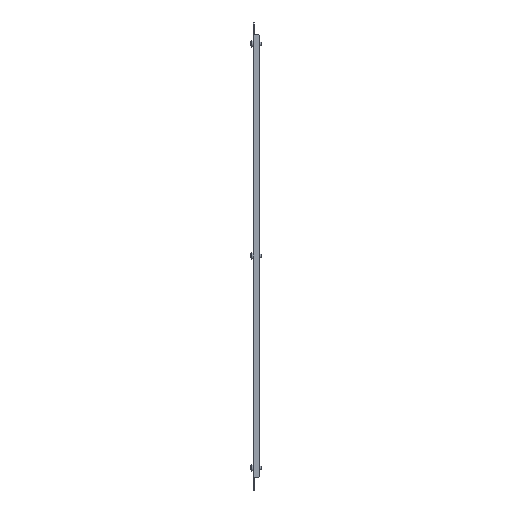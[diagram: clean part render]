
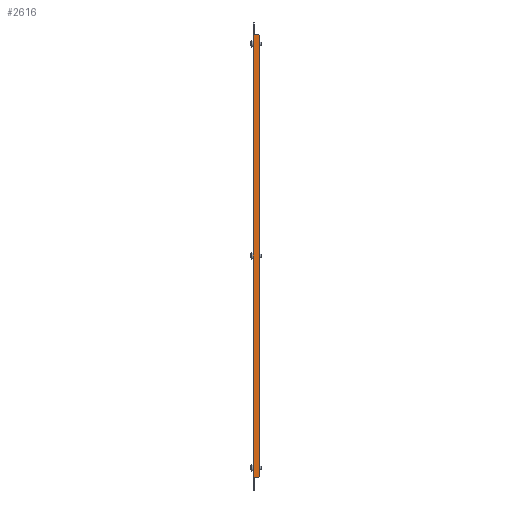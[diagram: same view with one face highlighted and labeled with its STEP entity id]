
A CAD part, left-side view. The second image highlights one B-rep face of the part: STEP entity #2616.
In plain terms, the highlighted planar face has unit normal (-1, 0, 0) as drawn and (1, 0, 0) by its records, which use the part's own axes.
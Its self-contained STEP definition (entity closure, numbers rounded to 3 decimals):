
#57 = CARTESIAN_POINT ( 'NONE',  ( 84., -313., 0. ) ) ;
#151 = LINE ( 'NONE', #682, #3226 ) ;
#199 = CARTESIAN_POINT ( 'NONE',  ( 84., -312., -9. ) ) ;
#234 = LINE ( 'NONE', #2054, #1978 ) ;
#250 = VERTEX_POINT ( 'NONE', #199 ) ;
#257 = DIRECTION ( 'NONE',  ( 0., 0.707, 0.707 ) ) ;
#329 = EDGE_CURVE ( 'NONE', #552, #832, #1518, .T. ) ;
#345 = EDGE_CURVE ( 'NONE', #832, #1014, #234, .T. ) ;
#430 = ORIENTED_EDGE ( 'NONE', *, *, #3210, .F. ) ;
#433 = VECTOR ( 'NONE', #2022, 1000. ) ;
#447 = CARTESIAN_POINT ( 'NONE',  ( 84., 0., -9. ) ) ;
#551 = AXIS2_PLACEMENT_3D ( 'NONE', #3204, #910, #883 ) ;
#552 = VERTEX_POINT ( 'NONE', #2514 ) ;
#597 = EDGE_CURVE ( 'NONE', #2538, #1974, #1062, .T. ) ;
#638 = CARTESIAN_POINT ( 'NONE',  ( 84., -312., -9. ) ) ;
#668 = DIRECTION ( 'NONE',  ( 0., -1., 0. ) ) ;
#682 = CARTESIAN_POINT ( 'NONE',  ( 84., -313., 0. ) ) ;
#809 = VECTOR ( 'NONE', #668, 1000. ) ;
#832 = VERTEX_POINT ( 'NONE', #2418 ) ;
#851 = DIRECTION ( 'NONE',  ( 0., 0.707, -0.707 ) ) ;
#883 = DIRECTION ( 'NONE',  ( 0., 0., 1. ) ) ;
#910 = DIRECTION ( 'NONE',  ( -1., 0., 0. ) ) ;
#962 = VECTOR ( 'NONE', #1591, 1000. ) ;
#987 = ORIENTED_EDGE ( 'NONE', *, *, #329, .T. ) ;
#1014 = VERTEX_POINT ( 'NONE', #2763 ) ;
#1031 = CARTESIAN_POINT ( 'NONE',  ( 84., -313., -2.1 ) ) ;
#1047 = CARTESIAN_POINT ( 'NONE',  ( 84., 312., -9. ) ) ;
#1062 = LINE ( 'NONE', #1383, #962 ) ;
#1081 = LINE ( 'NONE', #3119, #1994 ) ;
#1164 = VERTEX_POINT ( 'NONE', #1047 ) ;
#1169 = PLANE ( 'NONE',  #551 ) ;
#1383 = CARTESIAN_POINT ( 'NONE',  ( 84., -313., 0. ) ) ;
#1456 = EDGE_CURVE ( 'NONE', #1014, #2003, #1954, .T. ) ;
#1460 = DIRECTION ( 'NONE',  ( 0., 1., 0. ) ) ;
#1478 = ORIENTED_EDGE ( 'NONE', *, *, #2226, .T. ) ;
#1518 = LINE ( 'NONE', #2589, #433 ) ;
#1591 = DIRECTION ( 'NONE',  ( 0., 0., -1. ) ) ;
#1711 = LINE ( 'NONE', #447, #2415 ) ;
#1772 = DIRECTION ( 'NONE',  ( 0., 0., 1. ) ) ;
#1934 = CARTESIAN_POINT ( 'NONE',  ( 84., 0., 0. ) ) ;
#1953 = DIRECTION ( 'NONE',  ( 0., 0., 1. ) ) ;
#1954 = LINE ( 'NONE', #1934, #809 ) ;
#1974 = VERTEX_POINT ( 'NONE', #3282 ) ;
#1978 = VECTOR ( 'NONE', #1772, 1000. ) ;
#1994 = VECTOR ( 'NONE', #257, 1000. ) ;
#2003 = VERTEX_POINT ( 'NONE', #57 ) ;
#2022 = DIRECTION ( 'NONE',  ( 0., 0., 1. ) ) ;
#2054 = CARTESIAN_POINT ( 'NONE',  ( 84., 313., -2.1 ) ) ;
#2093 = ORIENTED_EDGE ( 'NONE', *, *, #1456, .T. ) ;
#2226 = EDGE_CURVE ( 'NONE', #1974, #250, #2922, .T. ) ;
#2415 = VECTOR ( 'NONE', #1460, 1000. ) ;
#2418 = CARTESIAN_POINT ( 'NONE',  ( 84., 313., -2.1 ) ) ;
#2514 = CARTESIAN_POINT ( 'NONE',  ( 84., 313., -8. ) ) ;
#2538 = VERTEX_POINT ( 'NONE', #1031 ) ;
#2577 = EDGE_CURVE ( 'NONE', #1164, #552, #1081, .T. ) ;
#2589 = CARTESIAN_POINT ( 'NONE',  ( 84., 313., 0. ) ) ;
#2591 = ORIENTED_EDGE ( 'NONE', *, *, #345, .T. ) ;
#2616 = ADVANCED_FACE ( 'NONE', ( #2954 ), #1169, .F. ) ;
#2619 = ORIENTED_EDGE ( 'NONE', *, *, #2835, .T. ) ;
#2763 = CARTESIAN_POINT ( 'NONE',  ( 84., 313., 0. ) ) ;
#2786 = ORIENTED_EDGE ( 'NONE', *, *, #597, .T. ) ;
#2835 = EDGE_CURVE ( 'NONE', #250, #1164, #1711, .T. ) ;
#2877 = EDGE_LOOP ( 'NONE', ( #2619, #2953, #987, #2591, #2093, #430, #2786, #1478 ) ) ;
#2922 = LINE ( 'NONE', #638, #3108 ) ;
#2953 = ORIENTED_EDGE ( 'NONE', *, *, #2577, .T. ) ;
#2954 = FACE_OUTER_BOUND ( 'NONE', #2877, .T. ) ;
#3108 = VECTOR ( 'NONE', #851, 1000. ) ;
#3119 = CARTESIAN_POINT ( 'NONE',  ( 84., 313., -8. ) ) ;
#3204 = CARTESIAN_POINT ( 'NONE',  ( 84., 0., 0. ) ) ;
#3210 = EDGE_CURVE ( 'NONE', #2538, #2003, #151, .T. ) ;
#3226 = VECTOR ( 'NONE', #1953, 1000. ) ;
#3282 = CARTESIAN_POINT ( 'NONE',  ( 84., -313., -8. ) ) ;
